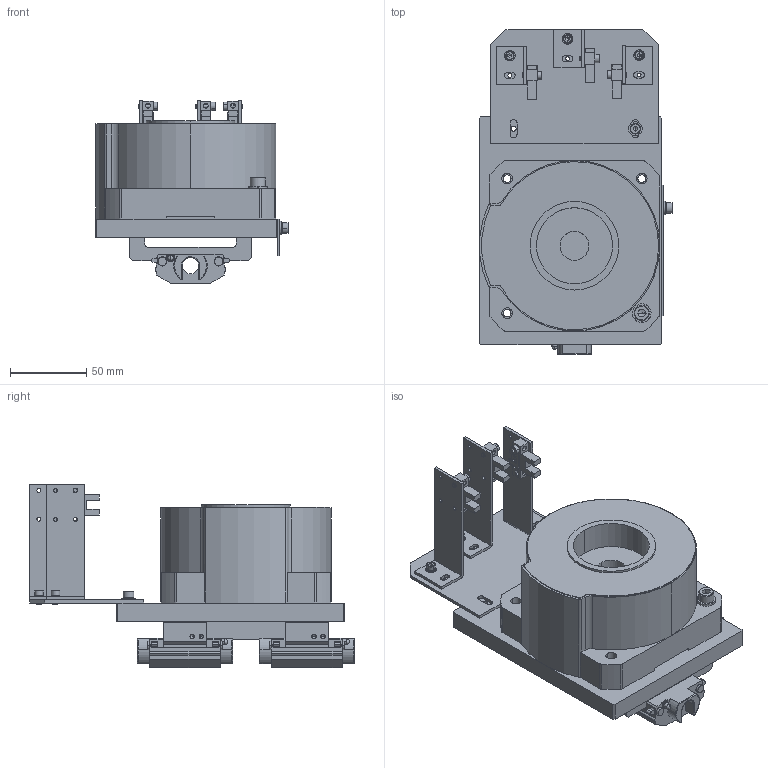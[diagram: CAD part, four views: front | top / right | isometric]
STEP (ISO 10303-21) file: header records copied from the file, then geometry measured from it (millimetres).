
FILE_DESCRIPTION (( 'STEP AP214' ), '1' );
FILE_NAME ('20_X-Y-Theta_mechanism_Y.STEP', '2021-02-16T01:33:20', ( '' ), ( '' ), 'SwSTEP 2.0', 'SolidWorks 2017', '' );
FILE_SCHEMA (( 'AUTOMOTIVE_DESIGN' ));
Length unit declared in the file: millimetre
Products named in the file (20): 0296_304_SCB6-30; 0296_101_Direct_Drive_Motor; _0296_SA03; _0296_SA02_1; BLOCK S2 COVER_LX3010C-S2-A3040-200_1; BLOCK S1 COVER_LX3010C-S2-A3040-200_1; 0296_Z_Direct_Drive_Motor_1; 0296_303_SCB5-15_1; 0296_008_SCBS4-8; 0296_207_Bracket; 20_X-Y-Theta_mechanism_Y; 0296_211_Dog; 0296_301_SCB3-10_1; 0296_202_Plate; 0296_305_SLW6; 0296_002_FPMK65; BLOCK 04_LX3010C-S2-A3040-200_1; 0296_206_Plate; 0296_007_SCBS3-6; 0296_001_LX3010C-S2-A3040-200_1
Assembly tree (28 placements, depth 5):
  20_X-Y-Theta_mechanism_Y
    _0296_SA02_1
      0296_001_LX3010C-S2-A3040-200_1
        BLOCK S1 COVER_LX3010C-S2-A3040-200_1
          BLOCK 04_LX3010C-S2-A3040-200_1
        BLOCK S2 COVER_LX3010C-S2-A3040-200_1
      0296_002_FPMK65  x3
      0296_007_SCBS3-6  x3
      0296_008_SCBS4-8  x2
      0296_202_Plate
      0296_206_Plate
      0296_207_Bracket  x3
      0296_211_Dog
      0296_301_SCB3-10_1  x3
      0296_303_SCB5-15_1
    _0296_SA03
      0296_101_Direct_Drive_Motor
        0296_Z_Direct_Drive_Motor_1
      0296_304_SCB6-30
      0296_305_SLW6
Bounding box: 127 x 213.25 x 120.5 mm (x, y, z)
Volume: 989697.7 mm3; surface area: 179058.1 mm2
Topology: 33 solids, 35 shells, 1264 faces, 3238 edges, 2049 vertices
Faces by surface type: plane 645, cylinder 455, cone 134, bspline 30
Entity records: 38691 total; most frequent: CARTESIAN_POINT 5522, DIRECTION 4901, ORIENTED_EDGE 4528, EDGE_CURVE 2264, AXIS2_PLACEMENT_3D 1759, VERTEX_POINT 1468, VECTOR 1383, LINE 1383
